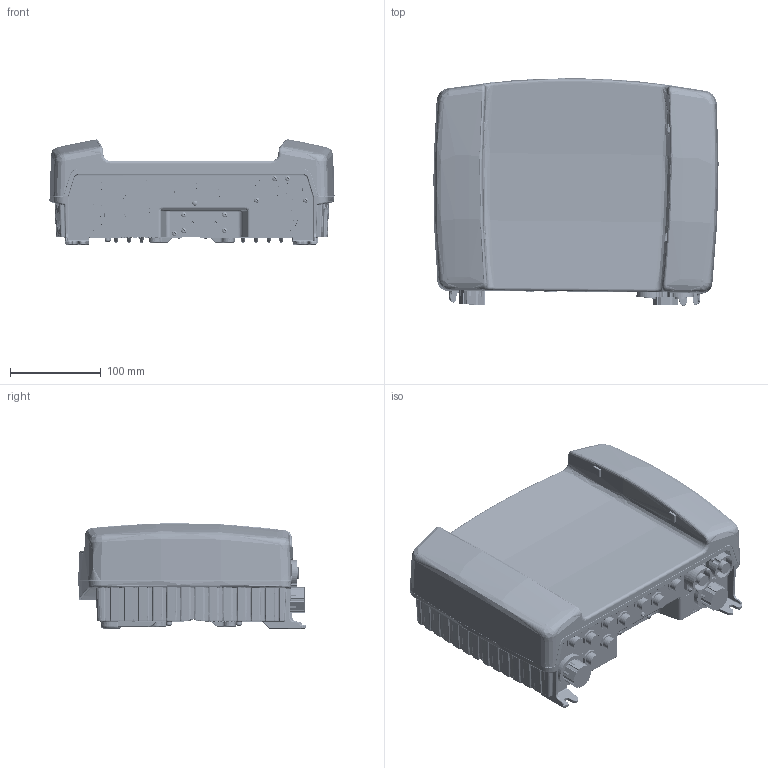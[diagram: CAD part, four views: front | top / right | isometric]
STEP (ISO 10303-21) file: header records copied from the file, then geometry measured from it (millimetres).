
FILE_DESCRIPTION (( 'STEP AP214' ), '1' );
FILE_NAME ('LXV400.TD.00000_SC1000.STEP', '2011-09-20T07:47:20', ( 'helpdesk' ), ( 'Hach-Lange' ), 'SwSTEP 2.0', 'SolidWorks 2011', '' );
FILE_SCHEMA (( 'AUTOMOTIVE_DESIGN' ));
Length unit declared in the file: millimetre
Products named in the file (1): LXV400.TD.00000_SC1000
Bounding box: 314.93 x 251.61 x 116.39 mm (x, y, z)
Volume: 1485199.5 mm3; surface area: 712376.6 mm2
Topology: 1 solids, 1 shells, 8410 faces, 20895 edges, 12076 vertices
Faces by surface type: bspline 2629, cylinder 2304, plane 2011, torus 587, sphere 450, cone 429
Entity records: 331528 total; most frequent: CARTESIAN_POINT 142824, ORIENTED_EDGE 40770, DIRECTION 32437, EDGE_CURVE 20385, AXIS2_PLACEMENT_3D 12836, VERTEX_POINT 12071, EDGE_LOOP 8566, FACE_OUTER_BOUND 8410
